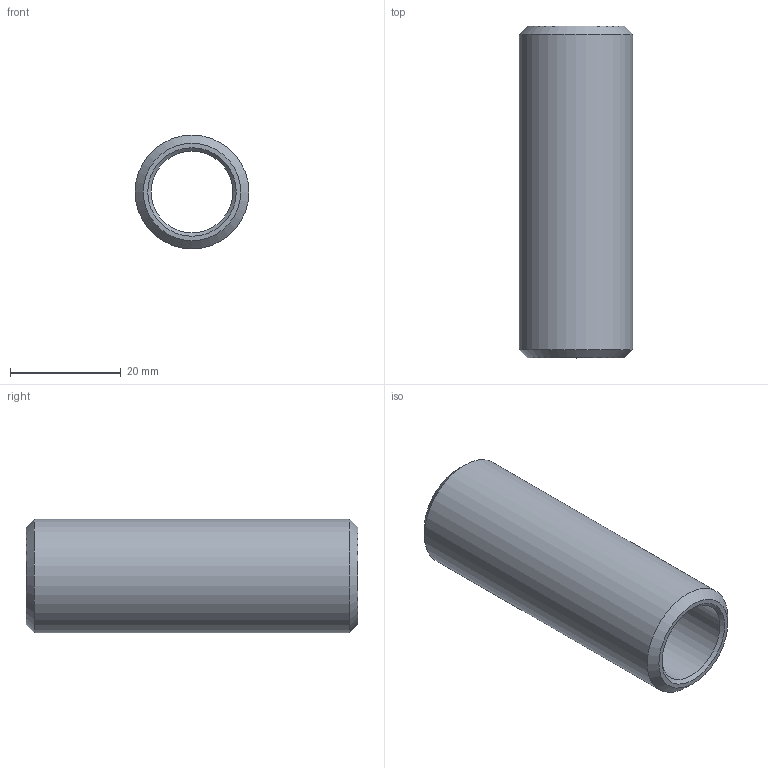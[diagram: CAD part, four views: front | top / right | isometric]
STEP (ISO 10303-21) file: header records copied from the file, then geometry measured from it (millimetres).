
FILE_DESCRIPTION(('STEP AP203'), '1');
FILE_NAME('ÂÐ.715241.002 - VTr.652.N.0406 Áî÷. ðåçüá. G1-2 L60', '2024-07-11T08:33:15', ('User'), ('Vesta'), 'C3D Converter', 'C3D Toolkit', '');
FILE_SCHEMA(('CONFIG_CONTROL_DESIGN'));
Length unit declared in the file: millimetre
Products named in the file (1): ВР.715241.002
Bounding box: 20.6 x 60 x 20.6 mm (x, y, z)
Volume: 9519.7 mm3; surface area: 6843.9 mm2
Topology: 1 solids, 1 shells, 8 faces, 16 edges, 10 vertices
Faces by surface type: cone 4, plane 2, cylinder 2
Full cylindrical faces by diameter (mm): 14.8 x1, 20.6 x1
Entity records: 219 total; most frequent: DIRECTION 38, CARTESIAN_POINT 29, ORIENTED_EDGE 20, AXIS2_PLACEMENT_3D 19, EDGE_LOOP 16, EDGE_CURVE 10, VERTEX_POINT 10, CIRCLE 10
